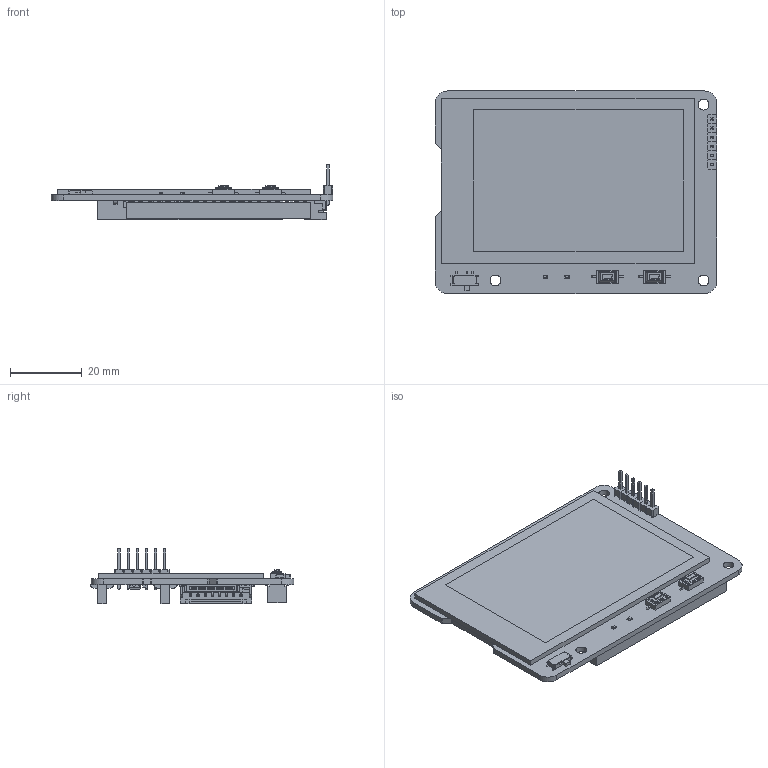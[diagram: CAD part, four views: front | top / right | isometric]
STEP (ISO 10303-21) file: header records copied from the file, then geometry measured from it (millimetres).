
FILE_DESCRIPTION(/* description */ (''),/* implementation_level */ '2;1');
FILE_NAME(/* name */ '2.7inch E-Paper Display-V1.4_step.prt.stp',/* time_stamp */ '2025-08-19T09:54:58+08:00',/* author */ (''),/* organization */ (''),/* preprocessor_version */ 'ST-DEVELOPER v16.7',/* originating_system */ 'SIEMENS PLM Software NX 12.0',/* authorisation */ '');
FILE_SCHEMA (('AUTOMOTIVE_DESIGN { 1 0 10303 214 3 1 1 1 }'));
Products named in the file (79): 3_1_2_3_4_5_600; 2_1_2_3_4_5_600; 1_1_2_3_4_5_6_A; PH2_0_SMD-W__1_2_30004; User_Library-LED_0603_R_Pad; User_Library-LED_0603_R_Pocket001; User_Library-LED_0603_R_Fillet; User_Library-LED_0603_R_Pad004; User_Library-LED_0603_R_Pocket002; C_06034752; LOGO_; SOD123; FPC-SMD_24P-P0.50-L6.1-W16.4; XEL4020; sc70-3; Slide-SW_SPDT; SOT23-5-2; txs0108epwr; 2_54PIN_single; Female-Header-2_54-SMD-40; User_Library-R0603-2; Abna; Apingmu; Aanjian; Apaizhen; C_0603; C1; C2; C3; C4; C5; C6; C7; C8; C9; C10; C11; C12; C13; C14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
Assembly tree (124 placements, depth 8):
  2.7inch  E-Paper Display-V1.4_step
    Board
      Abna
    C20
      C_0603
        LOGO_
        C_06034752
    R12
      User_Library-R0603-2
    R11
      User_Library-R0603-2
    R10
      User_Library-R0603-2
    R9
      User_Library-R0603-2
    R8
      User_Library-R0603-2
    R7
      User_Library-R0603-2
    D2
      User_Library-LED_0603_R
        User_Library-LED_0603_R_Pocket002
        User_Library-LED_0603_R_Pad004
        User_Library-LED_0603_R_Fillet
        User_Library-LED_0603_R_Pocket001
        User_Library-LED_0603_R_Pad
    D1
      User_Library-LED_0603_R
        User_Library-LED_0603_R_Pocket002
        User_Library-LED_0603_R_Pad004
        User_Library-LED_0603_R_Fillet
        User_Library-LED_0603_R_Pocket001
        User_Library-LED_0603_R_Pad
    P2
      Female-Header-2_54-SMD-40
    J5
      2_54PIN_single  x6
    U2
      txs0108epwr
    U1
      SOT23-5-2
    SW1
      Slide-SW_SPDT
    R6
      User_Library-R0603-2
    R5
      User_Library-R0603-2
    R4
      User_Library-R0603-2
    R3
      User_Library-R0603-2
    R1
      User_Library-R0603-2
    Q1
      sc70-3
    P1
      PH2_0-8PWB
        Designator10
          PH2.0_SMD-W-8P
            PH2_0_SMD-W-8P-13506_AF0_ASM
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Bounding box: 78.5 x 56.7 x 15.54 mm (x, y, z)
Volume: 36260.5 mm3; surface area: 56655.7 mm2
Topology: 862 solids, 862 shells, 19178 faces, 48026 edges, 31026 vertices
Faces by surface type: plane 11080, bspline 4188, cylinder 3286, sphere 404, torus 220
Full cylindrical faces by diameter (mm): 3 x6
Entity records: 560139 total; most frequent: CARTESIAN_POINT 204229, ORIENTED_EDGE 67676, DIRECTION 54358, EDGE_CURVE 33838, LINE 24060, VECTOR 24060, VERTEX_POINT 22028, AXIS2_PLACEMENT_3D 15149
